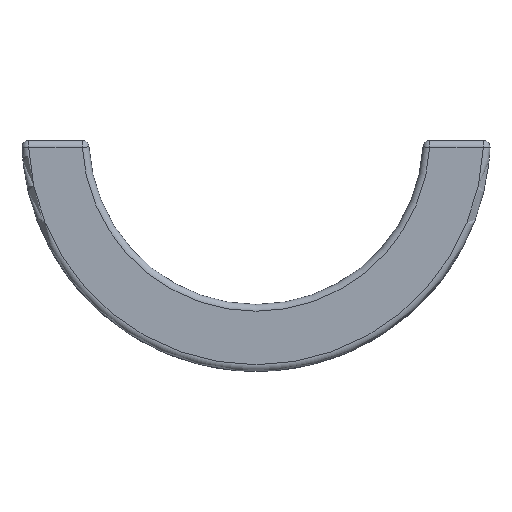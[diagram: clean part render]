
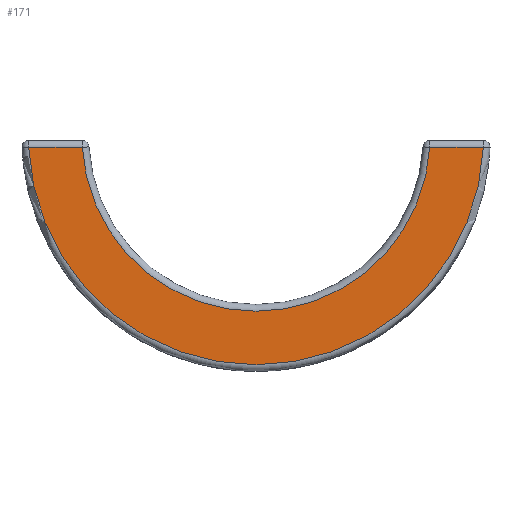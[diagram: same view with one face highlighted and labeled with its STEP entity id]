
A CAD part, top view. The second image highlights one B-rep face of the part: STEP entity #171.
In plain terms, the highlighted planar face has unit normal (0, 0, 1).
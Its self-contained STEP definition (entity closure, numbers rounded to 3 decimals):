
#88 = DIRECTION ( 'NONE',  ( 1., 0., 0. ) ) ;
#116 = EDGE_CURVE ( 'NONE', #1686, #785, #1577, .T. ) ;
#171 = ADVANCED_FACE ( 'NONE', ( #1226 ), #823, .T. ) ;
#172 = DIRECTION ( 'NONE',  ( 0., 0., -1. ) ) ;
#209 = ORIENTED_EDGE ( 'NONE', *, *, #116, .T. ) ;
#243 = VERTEX_POINT ( 'NONE', #1758 ) ;
#245 = LINE ( 'NONE', #1623, #646 ) ;
#316 = CARTESIAN_POINT ( 'NONE',  ( 0., 0., 5. ) ) ;
#347 = AXIS2_PLACEMENT_3D ( 'NONE', #316, #172, #579 ) ;
#373 = DIRECTION ( 'NONE',  ( -1., 0., 0. ) ) ;
#385 = CARTESIAN_POINT ( 'NONE',  ( 0., 0., 5. ) ) ;
#418 = EDGE_CURVE ( 'NONE', #243, #1686, #1133, .T. ) ;
#426 = CARTESIAN_POINT ( 'NONE',  ( -34.996, -1.5, 5. ) ) ;
#517 = EDGE_LOOP ( 'NONE', ( #1540, #1240, #518, #209 ) ) ;
#518 = ORIENTED_EDGE ( 'NONE', *, *, #418, .T. ) ;
#579 = DIRECTION ( 'NONE',  ( 1., 0., 0. ) ) ;
#612 = CARTESIAN_POINT ( 'NONE',  ( 33.967, -1.5, 5. ) ) ;
#646 = VECTOR ( 'NONE', #373, 1000. ) ;
#771 = CARTESIAN_POINT ( 'NONE',  ( 0., 0., 5. ) ) ;
#777 = AXIS2_PLACEMENT_3D ( 'NONE', #771, #1653, #88 ) ;
#778 = CARTESIAN_POINT ( 'NONE',  ( -33.967, -1.5, 5. ) ) ;
#781 = DIRECTION ( 'NONE',  ( 1., 0., 0. ) ) ;
#785 = VERTEX_POINT ( 'NONE', #612 ) ;
#823 = PLANE ( 'NONE',  #1164 ) ;
#1055 = EDGE_CURVE ( 'NONE', #1524, #243, #1152, .T. ) ;
#1133 = LINE ( 'NONE', #426, #1451 ) ;
#1152 = CIRCLE ( 'NONE', #347, 26. ) ;
#1164 = AXIS2_PLACEMENT_3D ( 'NONE', #385, #1511, #781 ) ;
#1186 = EDGE_CURVE ( 'NONE', #785, #1524, #245, .T. ) ;
#1226 = FACE_OUTER_BOUND ( 'NONE', #517, .T. ) ;
#1240 = ORIENTED_EDGE ( 'NONE', *, *, #1055, .T. ) ;
#1415 = DIRECTION ( 'NONE',  ( -1., 0., 0. ) ) ;
#1451 = VECTOR ( 'NONE', #1415, 1000. ) ;
#1511 = DIRECTION ( 'NONE',  ( 0., 0., 1. ) ) ;
#1524 = VERTEX_POINT ( 'NONE', #1603 ) ;
#1540 = ORIENTED_EDGE ( 'NONE', *, *, #1186, .T. ) ;
#1577 = CIRCLE ( 'NONE', #777, 34. ) ;
#1603 = CARTESIAN_POINT ( 'NONE',  ( 25.957, -1.5, 5. ) ) ;
#1623 = CARTESIAN_POINT ( 'NONE',  ( 24.995, -1.5, 5. ) ) ;
#1653 = DIRECTION ( 'NONE',  ( 0., 0., 1. ) ) ;
#1686 = VERTEX_POINT ( 'NONE', #778 ) ;
#1758 = CARTESIAN_POINT ( 'NONE',  ( -25.957, -1.5, 5. ) ) ;
